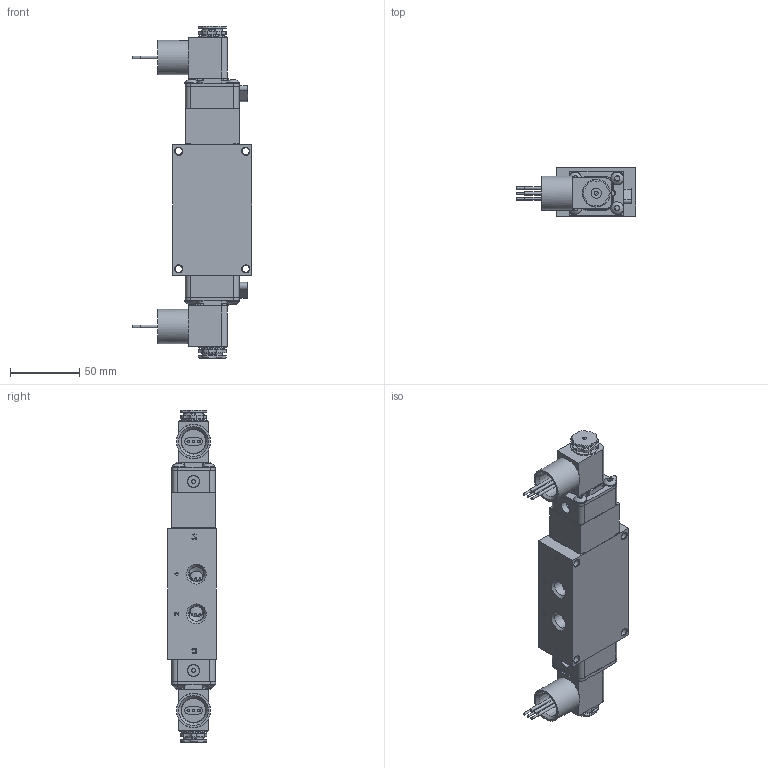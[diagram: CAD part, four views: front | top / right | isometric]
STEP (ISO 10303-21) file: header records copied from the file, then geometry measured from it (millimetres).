
FILE_DESCRIPTION(/* description */ (''),/* implementation_level */ '2;1');
FILE_NAME(/* name */ 'ZESS2JOCQZ.stp',/* time_stamp */ '2026-10-01T10:13:22-04:00',/* author */ ('rmckenna'),/* organization */ (''),/* preprocessor_version */ 'ST-DEVELOPER v20.2',/* originating_system */ 'Autodesk Inventor 2027',/* authorisation */ '');
FILE_SCHEMA (('AUTOMOTIVE_DESIGN { 1 0 10303 214 3 1 1 }'));
Products named in the file (1): Part72
Bounding box: 86.37 x 34.92 x 239.54 mm (x, y, z)
Volume: 272014.4 mm3; surface area: 96462.8 mm2
Topology: 1 solids, 19 shells, 2119 faces, 5289 edges, 3381 vertices
Faces by surface type: plane 988, cylinder 610, cone 272, torus 145, bspline 96, sphere 8
Full cylindrical faces by diameter (mm): 1.168 x20, 1.3 x2, 1.397 x2, 1.5 x2, 1.524 x6, 2.032 x14, 2.35 x8, 2.5 x2, 2.8 x2, 3 x8, 3.048 x2, 3.175 x1, 3.4 x2, 3.683 x10, 4.191 x4, 4.394 x1, 4.826 x8, 4.978 x2, 5.15 x8, 5.156 x16, 5.159 x4, 5.5 x2, 6.65 x2, 7.29 x2, 7.9 x2, 8 x4, 8.433 x2, 8.6 x4, 9.144 x4, 9.169 x8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
Entity records: 71204 total; most frequent: CARTESIAN_POINT 18086, DIRECTION 10605, ORIENTED_EDGE 10552, EDGE_CURVE 5276, AXIS2_PLACEMENT_3D 3937, VERTEX_POINT 3379, LINE 2731, VECTOR 2731
